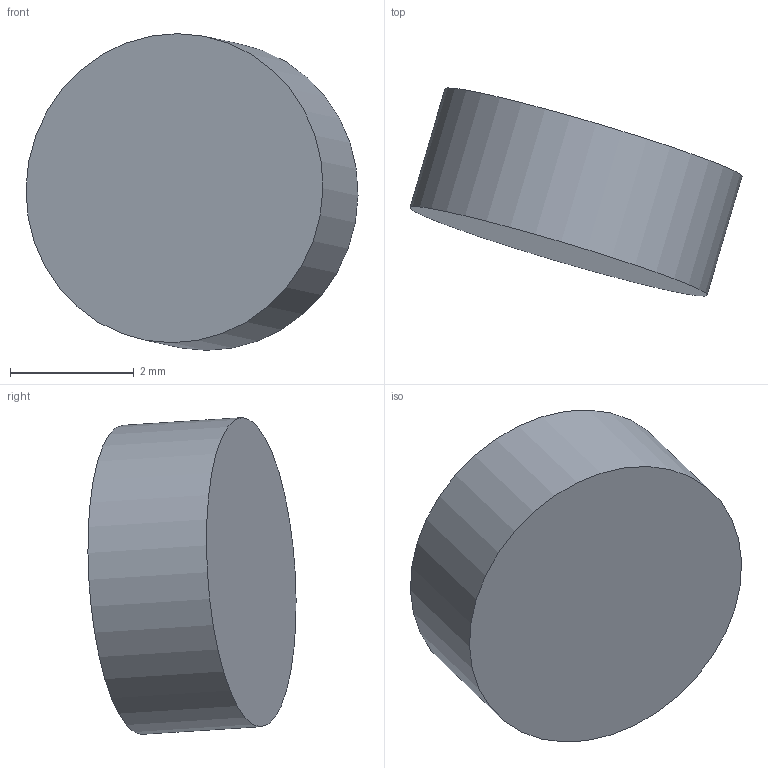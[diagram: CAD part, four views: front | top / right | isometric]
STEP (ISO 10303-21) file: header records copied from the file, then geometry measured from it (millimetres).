
FILE_DESCRIPTION(('Open CASCADE Model'),'2;1');
FILE_NAME('Open CASCADE Shape Model','2026-11-23T18:10:00',('Author'),( 'Open CASCADE'),'Open CASCADE STEP processor 8.0','build123d', 'Unknown');
FILE_SCHEMA(('AUTOMOTIVE_DESIGN { 1 0 10303 214 1 1 1 1 }'));
Length unit declared in the file: millimetre
Products named in the file (2): =>[0:1:1:2]; SOLID
Assembly tree (1 placements, depth 2):
  =>[0:1:1:2]
    SOLID
Bounding box: 5.36 x 3.36 x 5.11 mm (x, y, z)
Volume: 39.3 mm3; surface area: 70.7 mm2
Topology: 1 solids, 1 shells, 3 faces, 3 edges, 2 vertices
Faces by surface type: plane 2, cylinder 1
Full cylindrical faces by diameter (mm): 5 x1
Entity records: 126 total; most frequent: DIRECTION 21, CARTESIAN_POINT 16, AXIS2_PLACEMENT_3D 7, ORIENTED_EDGE 6, PCURVE 6, DEFINITIONAL_REPRESENTATION 6, LINE 5, VECTOR 5
